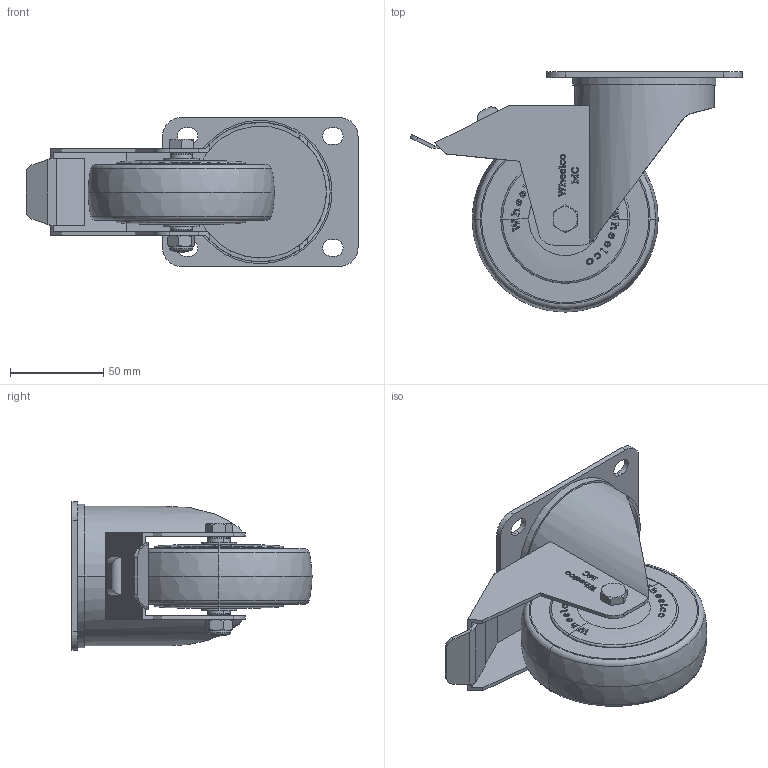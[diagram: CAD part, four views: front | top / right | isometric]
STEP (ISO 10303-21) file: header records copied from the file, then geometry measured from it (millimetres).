
FILE_DESCRIPTION (( 'STEP AP214' ), '1' );
FILE_NAME ('MCR100-P-TB.step', '2023-11-29T20:27:07', ( '' ), ( '' ), 'SwSTEP 2.0', 'SolidWorks 2022', '' );
FILE_SCHEMA (( 'AUTOMOTIVE_DESIGN' ));
Length unit declared in the file: millimetre
Products named in the file (7): MCR100; SP12-8-41; M8Nyloc; MCR100-P-TB; MC100-P-TB; MC 105x80 Swivel Plate; M8x55
Assembly tree (6 placements, depth 2):
  MCR100-P-TB
    MC100-P-TB
    MC 105x80 Swivel Plate
    SP12-8-41
    M8x55
    M8Nyloc
    MCR100
Bounding box: 178.37 x 129 x 80 mm (x, y, z)
Volume: 336431.5 mm3; surface area: 113911 mm2
Topology: 8 solids, 8 shells, 661 faces, 1773 edges, 1171 vertices
Faces by surface type: plane 304, bspline 168, cylinder 125, torus 42, cone 20, sphere 2
Entity records: 35653 total; most frequent: CARTESIAN_POINT 20152, ORIENTED_EDGE 3546, DIRECTION 2220, EDGE_CURVE 1773, VERTEX_POINT 1171, LINE 854, VECTOR 854, EDGE_LOOP 724
